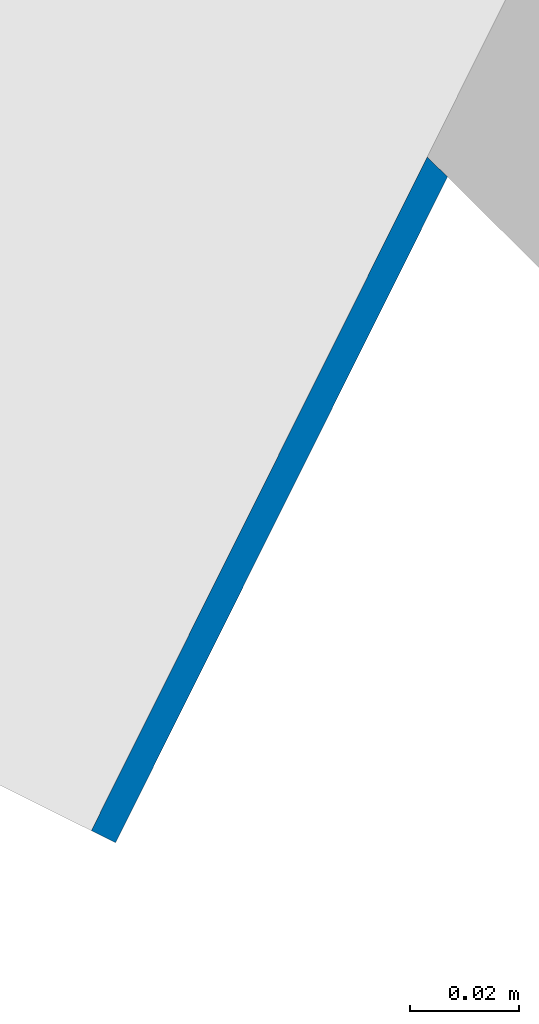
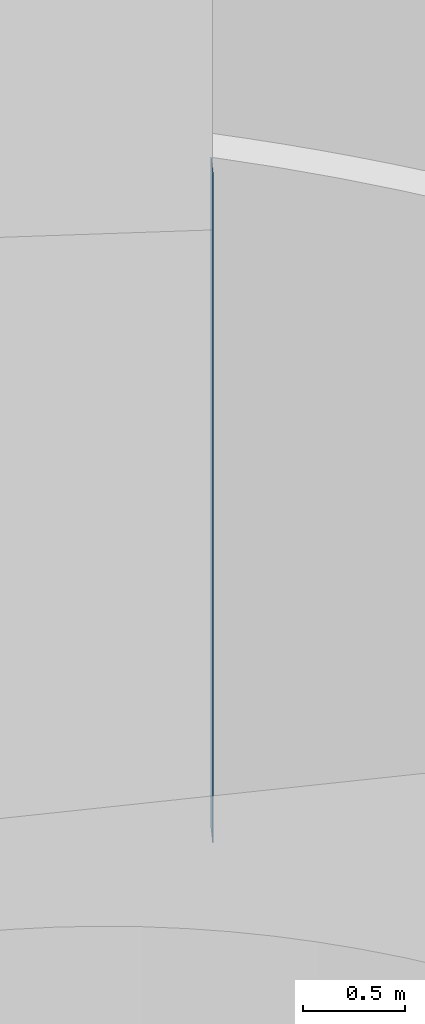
# One storey, part 11 of 47: 1 wall.
"""IFC2X3 building model written with IfcOpenShell, lengths in metres."""

from ifc_helpers import new_model, entity, si_unit, converted_unit, derived_unit, direction, frame, frame_2d, origin, place, context, subcontext, project, spatial, polyline, circle_curve, parameter, trimmed, segment, composite_curve, outline, extrude, material, layer, layer_set, layer_usage, type_object, element, save


model = new_model("IFC2X3")

# Units and contexts
model_context = context("Model", 3, precision=1e-05, world=origin(), true_north=direction((0.894925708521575, 0.446215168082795)))
context_of_model = context(None, 3, precision=1e-05, world=origin(), true_north=direction((0.894925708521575, 0.446215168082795)))
body_context = subcontext(model_context, "Body", "Model", "MODEL_VIEW")
ifc_project = project(units=[si_unit("LENGTHUNIT", "METRE"), si_unit("AREAUNIT", "SQUARE_METRE"), si_unit("VOLUMEUNIT", "CUBIC_METRE"), converted_unit("PLANEANGLEUNIT", "DEGREE", entity("IfcRatioMeasure", 0.0174532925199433), si_unit("PLANEANGLEUNIT", "RADIAN"), dimensions=[0, 0, 0, 0, 0, 0, 0]), si_unit("MASSUNIT", "GRAM", prefix="KILO"), si_unit("TIMEUNIT", "SECOND"), si_unit("FREQUENCYUNIT", "HERTZ"), si_unit("THERMODYNAMICTEMPERATUREUNIT", "DEGREE_CELSIUS"), derived_unit("THERMALTRANSMITTANCEUNIT", [(si_unit("MASSUNIT", "GRAM", prefix="KILO"), 1), (si_unit("THERMODYNAMICTEMPERATUREUNIT", "KELVIN"), -1), (si_unit("TIMEUNIT", "SECOND"), -3)]), derived_unit("VOLUMETRICFLOWRATEUNIT", [(si_unit("LENGTHUNIT", "METRE"), 3), (si_unit("TIMEUNIT", "SECOND"), -1)]), si_unit("ELECTRICCURRENTUNIT", "AMPERE"), si_unit("ELECTRICVOLTAGEUNIT", "VOLT"), si_unit("POWERUNIT", "WATT"), si_unit("FORCEUNIT", "NEWTON", prefix="KILO"), si_unit("ILLUMINANCEUNIT", "LUX"), si_unit("LUMINOUSFLUXUNIT", "LUMEN"), si_unit("LUMINOUSINTENSITYUNIT", "CANDELA"), si_unit("PRESSUREUNIT", "PASCAL")], contexts=[model_context, context_of_model])

# Site, building, storey
site_placement = place(None, frame((218.228324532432, 584.720189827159, 0.0), z_axis=(0.0, 0.0, 1.0), x_axis=(0.446215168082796, 0.894925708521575, 0.0)))
site = spatial("IfcSite", under=ifc_project, at=site_placement, Name="Default", CompositionType="ELEMENT")
building_placement = place(site_placement, origin())
building = spatial("IfcBuilding", under=site, at=building_placement, CompositionType="ELEMENT")
storey_placement = place(building_placement, frame((0.0, 0.0, 4.69)))
storey = spatial("IfcBuildingStorey", under=building, at=storey_placement, Name="1 - Piano Primo", CompositionType="ELEMENT", Elevation=4.69)

# Wall
ifc_material = material(Name="Sabbia e Calcestruzzo")
ifc_layer = layer(ifc_material, 0.005)
ifc_layer_set = layer_set([ifc_layer], Name="Muro di base:Malta di raccordo")
ifc_layer_usage = layer_usage(ifc_layer_set, "AXIS2", "NEGATIVE", 0.0025)
wall_type = type_object("IfcWallType", Name="Muro di base:Malta di raccordo", PredefinedType="STANDARD", material=ifc_layer_set)
wall_placement = place(storey_placement, frame((83.1077735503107, -5.07357899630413, -0.16), z_axis=(0.0, 0.0, 1.0), x_axis=(-1.0, 0.0, 0.0)))
element("IfcWallStandardCase", 1, at=wall_placement, inside=storey, type_object=wall_type, material=ifc_layer_usage, Name="Muro di base:Malta di raccordo", ObjectType="Muro di base:Malta di raccordo", context=body_context, shape_type="SweptSolid", body=[
    extrude(outline(composite_curve([segment(polyline([(0.138721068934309, -0.00249999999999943), (0.138721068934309, 0.00250000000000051)]), True, "CONTINUOUS"), segment(polyline([(0.138721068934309, 0.00250000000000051), (0.00156048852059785, 0.00250000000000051)]), True, "CONTINUOUS"), segment(trimmed(circle_curve(frame_2d((8.41656991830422, -2.62654863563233), x_axis=(-1.0, 0.0)), 8.81613750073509), [parameter(342.649956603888)], [parameter(342.683997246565)], True, "PARAMETER"), True, "CONTINUOUS"), segment(polyline([(0.0, -0.00249999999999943), (0.138721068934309, -0.00249999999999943)]), True, "CONTINUOUS")], self_intersect=False)), origin(), (0.0, 0.0, 1.0), 4.02),
])

save(model, "model.ifc")
